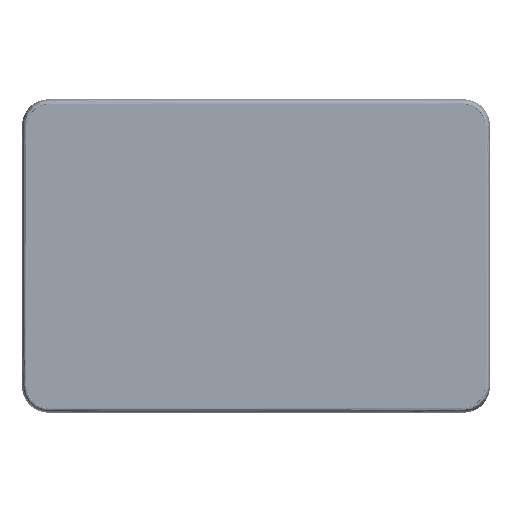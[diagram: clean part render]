
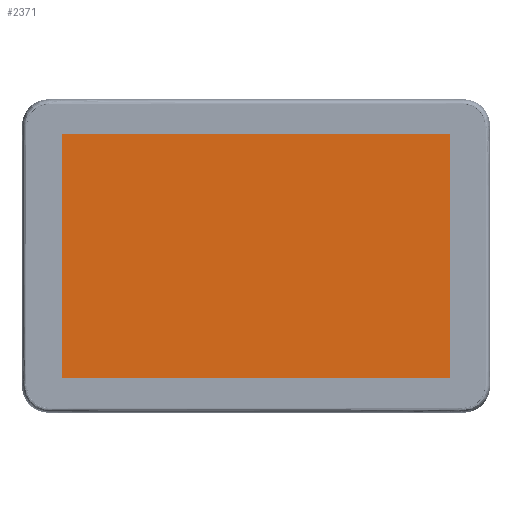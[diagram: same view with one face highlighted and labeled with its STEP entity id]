
A CAD part, top view. The second image highlights one B-rep face of the part: STEP entity #2371.
In plain terms, the highlighted planar face has unit normal (0, 0, 1).
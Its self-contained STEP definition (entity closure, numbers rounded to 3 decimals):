
#550=DIRECTION('',(0.,-1.,0.));
#551=VECTOR('',#550,136.64);
#552=CARTESIAN_POINT('',(-109.,68.32,-0.11));
#553=LINE('',#552,#551);
#554=DIRECTION('',(-1.,0.,0.));
#555=VECTOR('',#554,218.);
#556=CARTESIAN_POINT('',(109.,68.32,-0.11));
#557=LINE('',#556,#555);
#558=DIRECTION('',(0.,1.,0.));
#559=VECTOR('',#558,136.64);
#560=CARTESIAN_POINT('',(109.,-68.32,-0.11));
#561=LINE('',#560,#559);
#562=DIRECTION('',(1.,0.,0.));
#563=VECTOR('',#562,218.);
#564=CARTESIAN_POINT('',(-109.,-68.32,-0.11));
#565=LINE('',#564,#563);
#1305=CARTESIAN_POINT('',(-109.,68.32,-0.11));
#1307=VERTEX_POINT('',#1305);
#1310=CARTESIAN_POINT('',(-109.,-68.32,-0.11));
#1312=VERTEX_POINT('',#1310);
#1313=CARTESIAN_POINT('',(109.,68.32,-0.11));
#1315=VERTEX_POINT('',#1313);
#1317=CARTESIAN_POINT('',(109.,-68.32,-0.11));
#1319=VERTEX_POINT('',#1317);
#2360=CARTESIAN_POINT('',(0.,0.,-0.11));
#2361=DIRECTION('',(0.,0.,1.));
#2362=DIRECTION('',(1.,0.,0.));
#2363=AXIS2_PLACEMENT_3D('',#2360,#2361,#2362);
#2364=PLANE('',#2363);
#2365=ORIENTED_EDGE('',*,*,#2283,.F.);
#2366=ORIENTED_EDGE('',*,*,#2307,.F.);
#2367=ORIENTED_EDGE('',*,*,#2326,.F.);
#2368=ORIENTED_EDGE('',*,*,#2346,.F.);
#2369=EDGE_LOOP('',(#2365,#2366,#2367,#2368));
#2370=FACE_OUTER_BOUND('',#2369,.F.);
#2371=ADVANCED_FACE('',(#2370),#2364,.T.);
#2283=EDGE_CURVE('',#1307,#1312,#553,.T.);
#2307=EDGE_CURVE('',#1315,#1307,#557,.T.);
#2326=EDGE_CURVE('',#1319,#1315,#561,.T.);
#2346=EDGE_CURVE('',#1312,#1319,#565,.T.);
